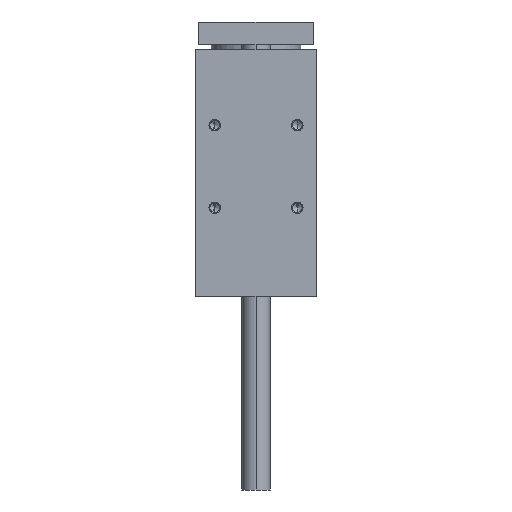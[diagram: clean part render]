
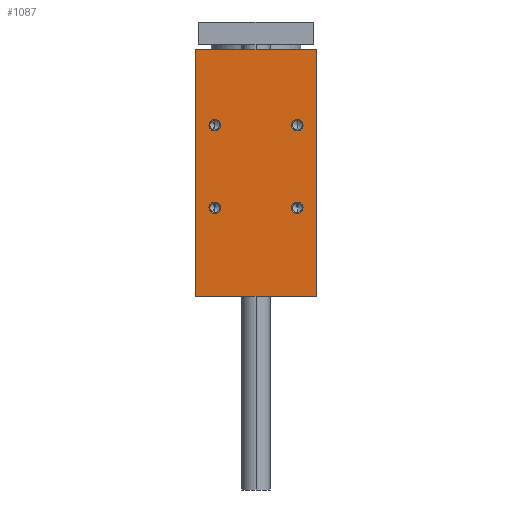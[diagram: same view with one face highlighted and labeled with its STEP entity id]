
A CAD part, left-side view. The second image highlights one B-rep face of the part: STEP entity #1087.
In plain terms, the highlighted planar face has unit normal (-1, 0, 0).
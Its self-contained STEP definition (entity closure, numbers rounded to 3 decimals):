
#71 = CARTESIAN_POINT ( 'NONE',  ( -94.5, -36., 26. ) ) ;
#241 = FACE_BOUND ( 'NONE', #6370, .T. ) ;
#388 = FACE_BOUND ( 'NONE', #2870, .T. ) ;
#405 = VECTOR ( 'NONE', #2568, 1000. ) ;
#508 = CIRCLE ( 'NONE', #7812, 5. ) ;
#524 = EDGE_LOOP ( 'NONE', ( #680, #6996 ) ) ;
#538 = VECTOR ( 'NONE', #2610, 1000. ) ;
#680 = ORIENTED_EDGE ( 'NONE', *, *, #8110, .T. ) ;
#704 = CARTESIAN_POINT ( 'NONE',  ( -94.5, 36., -51. ) ) ;
#753 = LINE ( 'NONE', #3726, #2086 ) ;
#832 = CIRCLE ( 'NONE', #9543, 5. ) ;
#1087 = ADVANCED_FACE ( 'NONE', ( #3163, #241, #388, #6325, #5447 ), #9301, .F. ) ;
#1153 = CARTESIAN_POINT ( 'NONE',  ( -94.5, 36., -56. ) ) ;
#1245 = CARTESIAN_POINT ( 'NONE',  ( -94.5, 36., 16. ) ) ;
#1328 = ORIENTED_EDGE ( 'NONE', *, *, #3829, .T. ) ;
#1406 = EDGE_LOOP ( 'NONE', ( #1328, #4013, #8560, #3410 ) ) ;
#1436 = ORIENTED_EDGE ( 'NONE', *, *, #3329, .T. ) ;
#1584 = CARTESIAN_POINT ( 'NONE',  ( -94.5, 36., 21. ) ) ;
#1679 = VERTEX_POINT ( 'NONE', #3731 ) ;
#1706 = VERTEX_POINT ( 'NONE', #71 ) ;
#1784 = DIRECTION ( 'NONE',  ( 0., 0., -1. ) ) ;
#1834 = CARTESIAN_POINT ( 'NONE',  ( -94.5, -36., -56. ) ) ;
#1915 = CIRCLE ( 'NONE', #5486, 5. ) ;
#1999 = ORIENTED_EDGE ( 'NONE', *, *, #3000, .T. ) ;
#2028 = VERTEX_POINT ( 'NONE', #6640 ) ;
#2086 = VECTOR ( 'NONE', #4455, 1000. ) ;
#2235 = CIRCLE ( 'NONE', #6746, 5. ) ;
#2250 = EDGE_LOOP ( 'NONE', ( #1436, #1999 ) ) ;
#2435 = DIRECTION ( 'NONE',  ( 0., 1., 0. ) ) ;
#2555 = CIRCLE ( 'NONE', #3957, 5. ) ;
#2568 = DIRECTION ( 'NONE',  ( 0., -1., 0. ) ) ;
#2582 = CARTESIAN_POINT ( 'NONE',  ( -94.5, -36., -51. ) ) ;
#2610 = DIRECTION ( 'NONE',  ( 0., 0., 1. ) ) ;
#2628 = DIRECTION ( 'NONE',  ( 1., 0., 0. ) ) ;
#2646 = VERTEX_POINT ( 'NONE', #6966 ) ;
#2848 = CARTESIAN_POINT ( 'NONE',  ( -94.5, -36., 21. ) ) ;
#2855 = AXIS2_PLACEMENT_3D ( 'NONE', #3343, #4027, #1784 ) ;
#2870 = EDGE_LOOP ( 'NONE', ( #6244, #9602 ) ) ;
#2907 = DIRECTION ( 'NONE',  ( 0., -1., 0. ) ) ;
#2941 = DIRECTION ( 'NONE',  ( 0., 0., -1. ) ) ;
#3000 = EDGE_CURVE ( 'NONE', #5975, #1706, #9384, .T. ) ;
#3088 = EDGE_CURVE ( 'NONE', #5052, #5641, #832, .T. ) ;
#3134 = CARTESIAN_POINT ( 'NONE',  ( -94.5, 36., -51. ) ) ;
#3163 = FACE_OUTER_BOUND ( 'NONE', #1406, .T. ) ;
#3273 = EDGE_CURVE ( 'NONE', #8540, #8416, #753, .T. ) ;
#3289 = EDGE_CURVE ( 'NONE', #5169, #5251, #2235, .T. ) ;
#3329 = EDGE_CURVE ( 'NONE', #1706, #5975, #2555, .T. ) ;
#3343 = CARTESIAN_POINT ( 'NONE',  ( -94.5, -36., 21. ) ) ;
#3344 = ORIENTED_EDGE ( 'NONE', *, *, #3088, .T. ) ;
#3353 = CARTESIAN_POINT ( 'NONE',  ( -94.5, -36., -46. ) ) ;
#3410 = ORIENTED_EDGE ( 'NONE', *, *, #5104, .T. ) ;
#3477 = AXIS2_PLACEMENT_3D ( 'NONE', #8420, #2628, #2435 ) ;
#3705 = CARTESIAN_POINT ( 'NONE',  ( -94.5, 36., 21. ) ) ;
#3726 = CARTESIAN_POINT ( 'NONE',  ( -94.5, 52.5, -128. ) ) ;
#3731 = CARTESIAN_POINT ( 'NONE',  ( -94.5, -52.5, 87. ) ) ;
#3823 = DIRECTION ( 'NONE',  ( 1., 0., 0. ) ) ;
#3829 = EDGE_CURVE ( 'NONE', #2028, #1679, #4707, .T. ) ;
#3849 = CARTESIAN_POINT ( 'NONE',  ( -94.5, 52.5, 87. ) ) ;
#3957 = AXIS2_PLACEMENT_3D ( 'NONE', #2848, #6686, #5954 ) ;
#3982 = CARTESIAN_POINT ( 'NONE',  ( -94.5, 52.5, -128. ) ) ;
#4013 = ORIENTED_EDGE ( 'NONE', *, *, #5377, .F. ) ;
#4027 = DIRECTION ( 'NONE',  ( 1., 0., 0. ) ) ;
#4065 = CIRCLE ( 'NONE', #9500, 5. ) ;
#4355 = EDGE_CURVE ( 'NONE', #7984, #2646, #4065, .T. ) ;
#4455 = DIRECTION ( 'NONE',  ( 0., 0., 1. ) ) ;
#4457 = DIRECTION ( 'NONE',  ( 1., 0., 0. ) ) ;
#4707 = LINE ( 'NONE', #8547, #538 ) ;
#4901 = CARTESIAN_POINT ( 'NONE',  ( -94.5, -36., -51. ) ) ;
#4918 = CARTESIAN_POINT ( 'NONE',  ( -94.5, 52.5, -128. ) ) ;
#5052 = VERTEX_POINT ( 'NONE', #1834 ) ;
#5104 = EDGE_CURVE ( 'NONE', #8540, #2028, #5578, .T. ) ;
#5141 = LINE ( 'NONE', #7379, #8970 ) ;
#5169 = VERTEX_POINT ( 'NONE', #1153 ) ;
#5251 = VERTEX_POINT ( 'NONE', #6833 ) ;
#5255 = EDGE_CURVE ( 'NONE', #5251, #5169, #9432, .T. ) ;
#5377 = EDGE_CURVE ( 'NONE', #8416, #1679, #5141, .T. ) ;
#5447 = FACE_BOUND ( 'NONE', #524, .T. ) ;
#5486 = AXIS2_PLACEMENT_3D ( 'NONE', #2582, #6324, #6464 ) ;
#5578 = LINE ( 'NONE', #3982, #405 ) ;
#5641 = VERTEX_POINT ( 'NONE', #3353 ) ;
#5954 = DIRECTION ( 'NONE',  ( 0., 0., -1. ) ) ;
#5975 = VERTEX_POINT ( 'NONE', #6694 ) ;
#6244 = ORIENTED_EDGE ( 'NONE', *, *, #5255, .T. ) ;
#6324 = DIRECTION ( 'NONE',  ( 1., 0., 0. ) ) ;
#6325 = FACE_BOUND ( 'NONE', #2250, .T. ) ;
#6370 = EDGE_LOOP ( 'NONE', ( #6422, #3344 ) ) ;
#6422 = ORIENTED_EDGE ( 'NONE', *, *, #8570, .T. ) ;
#6464 = DIRECTION ( 'NONE',  ( 0., 0., -1. ) ) ;
#6469 = AXIS2_PLACEMENT_3D ( 'NONE', #3134, #4457, #7567 ) ;
#6640 = CARTESIAN_POINT ( 'NONE',  ( -94.5, -52.5, -128. ) ) ;
#6642 = DIRECTION ( 'NONE',  ( 1., 0., 0. ) ) ;
#6665 = DIRECTION ( 'NONE',  ( 1., 0., 0. ) ) ;
#6686 = DIRECTION ( 'NONE',  ( 1., 0., 0. ) ) ;
#6694 = CARTESIAN_POINT ( 'NONE',  ( -94.5, -36., 16. ) ) ;
#6746 = AXIS2_PLACEMENT_3D ( 'NONE', #704, #6642, #2941 ) ;
#6833 = CARTESIAN_POINT ( 'NONE',  ( -94.5, 36., -46. ) ) ;
#6966 = CARTESIAN_POINT ( 'NONE',  ( -94.5, 36., 26. ) ) ;
#6996 = ORIENTED_EDGE ( 'NONE', *, *, #4355, .T. ) ;
#7085 = DIRECTION ( 'NONE',  ( 1., 0., 0. ) ) ;
#7379 = CARTESIAN_POINT ( 'NONE',  ( -94.5, 52.5, 87. ) ) ;
#7463 = DIRECTION ( 'NONE',  ( 0., 0., -1. ) ) ;
#7567 = DIRECTION ( 'NONE',  ( 0., 0., -1. ) ) ;
#7812 = AXIS2_PLACEMENT_3D ( 'NONE', #1584, #3823, #7463 ) ;
#7914 = DIRECTION ( 'NONE',  ( 0., 0., -1. ) ) ;
#7984 = VERTEX_POINT ( 'NONE', #1245 ) ;
#8110 = EDGE_CURVE ( 'NONE', #2646, #7984, #508, .T. ) ;
#8416 = VERTEX_POINT ( 'NONE', #3849 ) ;
#8420 = CARTESIAN_POINT ( 'NONE',  ( -94.5, 52.5, -128. ) ) ;
#8540 = VERTEX_POINT ( 'NONE', #4918 ) ;
#8547 = CARTESIAN_POINT ( 'NONE',  ( -94.5, -52.5, -128. ) ) ;
#8560 = ORIENTED_EDGE ( 'NONE', *, *, #3273, .F. ) ;
#8570 = EDGE_CURVE ( 'NONE', #5641, #5052, #1915, .T. ) ;
#8970 = VECTOR ( 'NONE', #2907, 1000. ) ;
#9301 = PLANE ( 'NONE',  #3477 ) ;
#9384 = CIRCLE ( 'NONE', #2855, 5. ) ;
#9432 = CIRCLE ( 'NONE', #6469, 5. ) ;
#9500 = AXIS2_PLACEMENT_3D ( 'NONE', #3705, #6665, #9628 ) ;
#9543 = AXIS2_PLACEMENT_3D ( 'NONE', #4901, #7085, #7914 ) ;
#9602 = ORIENTED_EDGE ( 'NONE', *, *, #3289, .T. ) ;
#9628 = DIRECTION ( 'NONE',  ( 0., 0., -1. ) ) ;
